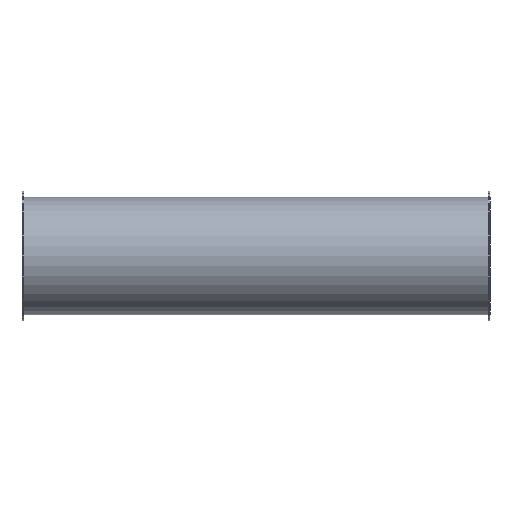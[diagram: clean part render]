
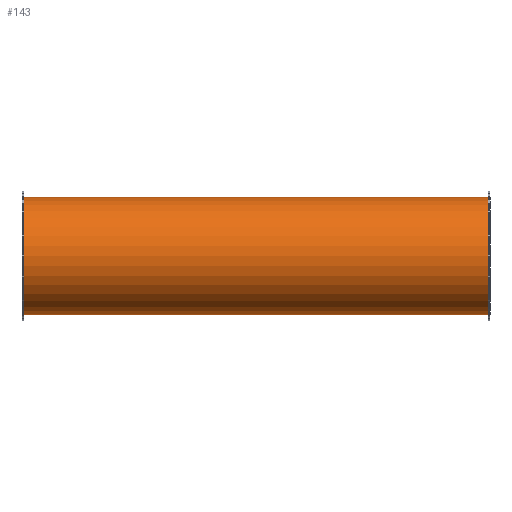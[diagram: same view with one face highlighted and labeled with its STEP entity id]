
A CAD part, front view. The second image highlights one B-rep face of the part: STEP entity #143.
In plain terms, the highlighted cylindrical face has radius 61.5 mm (diameter 123 mm), a full revolution.
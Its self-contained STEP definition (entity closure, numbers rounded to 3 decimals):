
#112=CARTESIAN_POINT('',(454.119,2.817,0.0));
#113=VERTEX_POINT('',#112);
#114=CARTESIAN_POINT('',(454.119,64.317,0.0));
#115=DIRECTION('',(-1.0,0.0,0.0));
#116=DIRECTION('',(0.0,-1.0,0.0));
#117=AXIS2_PLACEMENT_3D('',#114,#115,#116);
#118=CIRCLE('',#117,61.5);
#119=EDGE_CURVE('',#113,#113,#118,.T.);
#124=CARTESIAN_POINT('',(212.119,64.317,0.0));
#125=DIRECTION('',(-1.0,0.,0.0));
#126=DIRECTION('',(0.0,-1.0,0.0));
#127=AXIS2_PLACEMENT_3D('',#124,#125,#126);
#128=CYLINDRICAL_SURFACE('',#127,61.5);
#129=CARTESIAN_POINT('',(-29.881,2.817,0.0));
#130=VERTEX_POINT('',#129);
#131=CARTESIAN_POINT('',(-29.881,64.317,0.0));
#132=DIRECTION('',(-1.0,0.0,0.0));
#133=DIRECTION('',(0.0,-1.0,0.0));
#134=AXIS2_PLACEMENT_3D('',#131,#132,#133);
#135=CIRCLE('',#134,61.5);
#136=EDGE_CURVE('',#130,#130,#135,.T.);
#137=ORIENTED_EDGE('',*,*,#136,.F.);
#138=EDGE_LOOP('',(#137));
#139=FACE_OUTER_BOUND('',#138,.T.);
#140=ORIENTED_EDGE('',*,*,#119,.T.);
#141=EDGE_LOOP('',(#140));
#142=FACE_BOUND('',#141,.T.);
#143=ADVANCED_FACE('',(#139,#142),#128,.T.);
